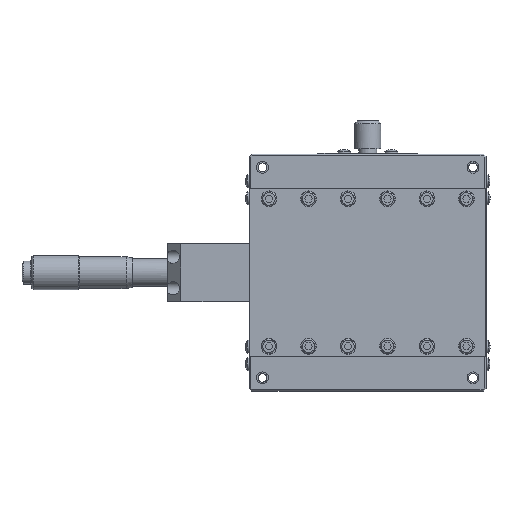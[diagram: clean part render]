
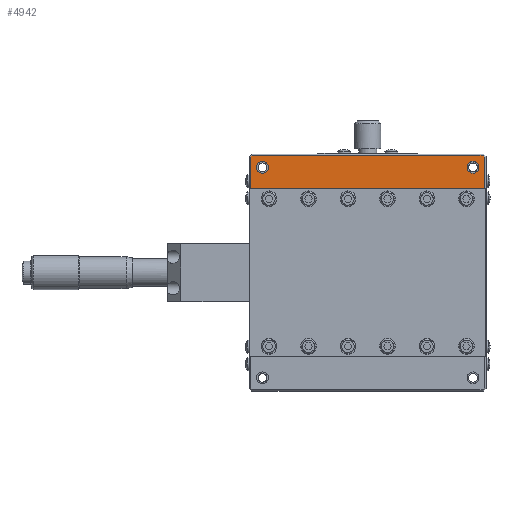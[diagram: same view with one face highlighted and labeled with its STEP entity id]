
A CAD part, front view. The second image highlights one B-rep face of the part: STEP entity #4942.
In plain terms, the highlighted planar face has unit normal (0, -1, 0).
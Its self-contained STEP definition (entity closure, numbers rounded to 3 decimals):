
#777 = CARTESIAN_POINT ( 'NONE',  ( 5., 2.982, 53.511 ) ) ;
#778 = DIRECTION ( 'NONE',  ( 0., -1., 0. ) ) ;
#779 = DIRECTION ( 'NONE',  ( 0., 0., 1. ) ) ;
#789 = CARTESIAN_POINT ( 'NONE',  ( 85., 2.982, 53.511 ) ) ;
#790 = DIRECTION ( 'NONE',  ( 0., -1., 0. ) ) ;
#791 = DIRECTION ( 'NONE',  ( 0., 0., 1. ) ) ;
#1484 = EDGE_LOOP ( 'NONE', ( #10310, #10311 ) ) ;
#1486 = EDGE_LOOP ( 'NONE', ( #10304, #10305, #10306, #10307, #10308, #10309 ) ) ;
#1505 = EDGE_LOOP ( 'NONE', ( #10312, #10313 ) ) ;
#2095 = DIRECTION ( 'NONE',  ( 0., 1., 0. ) ) ;
#2113 = CARTESIAN_POINT ( 'NONE',  ( 0., 2.982, 45.511 ) ) ;
#2114 = FACE_OUTER_BOUND ( 'NONE', #1486, .T. ) ;
#2117 = FACE_BOUND ( 'NONE', #1484, .T. ) ;
#2119 = FACE_BOUND ( 'NONE', #1505, .T. ) ;
#2120 = PLANE ( 'NONE',  #7218 ) ;
#2123 = DIRECTION ( 'NONE',  ( 0., 0., 1. ) ) ;
#2873 = CARTESIAN_POINT ( 'NONE',  ( 1.207, 2.982, 58.011 ) ) ;
#2882 = CARTESIAN_POINT ( 'NONE',  ( 88.793, 2.982, 58.011 ) ) ;
#2883 = CARTESIAN_POINT ( 'NONE',  ( 89.5, 2.982, 57.303 ) ) ;
#2885 = CARTESIAN_POINT ( 'NONE',  ( 0.5, 2.982, 45.511 ) ) ;
#2889 = CARTESIAN_POINT ( 'NONE',  ( 89.5, 2.982, 45.511 ) ) ;
#4942 = ADVANCED_FACE ( 'NONE', ( #2114, #2117, #2119 ), #2120, .F. ) ;
#6546 = VERTEX_POINT ( 'NONE', #2873 ) ;
#6555 = VERTEX_POINT ( 'NONE', #2882 ) ;
#6556 = VERTEX_POINT ( 'NONE', #2883 ) ;
#6558 = VERTEX_POINT ( 'NONE', #2885 ) ;
#6562 = VERTEX_POINT ( 'NONE', #2889 ) ;
#6615 = VERTEX_POINT ( 'NONE', #21342 ) ;
#6618 = VERTEX_POINT ( 'NONE', #24879 ) ;
#6619 = VERTEX_POINT ( 'NONE', #24880 ) ;
#6622 = VERTEX_POINT ( 'NONE', #24883 ) ;
#6631 = VERTEX_POINT ( 'NONE', #24892 ) ;
#7218 = AXIS2_PLACEMENT_3D ( 'NONE', #2113, #2095, #2123 ) ;
#7380 = EDGE_CURVE ( 'NONE', #6622, #6619, #12972, .T. ) ;
#7384 = EDGE_CURVE ( 'NONE', #6618, #6615, #12978, .T. ) ;
#7454 = EDGE_CURVE ( 'NONE', #6558, #6562, #22533, .T. ) ;
#7456 = EDGE_CURVE ( 'NONE', #6558, #6631, #22539, .T. ) ;
#7467 = EDGE_CURVE ( 'NONE', #6562, #6556, #22564, .T. ) ;
#7480 = EDGE_CURVE ( 'NONE', #6555, #6556, #22603, .T. ) ;
#7481 = EDGE_CURVE ( 'NONE', #6546, #6555, #22613, .T. ) ;
#7482 = EDGE_CURVE ( 'NONE', #6631, #6546, #22608, .T. ) ;
#7483 = EDGE_CURVE ( 'NONE', #6615, #6618, #10924, .T. ) ;
#7484 = EDGE_CURVE ( 'NONE', #6619, #6622, #10926, .T. ) ;
#10304 = ORIENTED_EDGE ( 'NONE', *, *, #7456, .F. ) ;
#10305 = ORIENTED_EDGE ( 'NONE', *, *, #7454, .T. ) ;
#10306 = ORIENTED_EDGE ( 'NONE', *, *, #7467, .T. ) ;
#10307 = ORIENTED_EDGE ( 'NONE', *, *, #7480, .F. ) ;
#10308 = ORIENTED_EDGE ( 'NONE', *, *, #7481, .F. ) ;
#10309 = ORIENTED_EDGE ( 'NONE', *, *, #7482, .F. ) ;
#10310 = ORIENTED_EDGE ( 'NONE', *, *, #7384, .F. ) ;
#10311 = ORIENTED_EDGE ( 'NONE', *, *, #7483, .F. ) ;
#10312 = ORIENTED_EDGE ( 'NONE', *, *, #7380, .F. ) ;
#10313 = ORIENTED_EDGE ( 'NONE', *, *, #7484, .F. ) ;
#10895 = VECTOR ( 'NONE', #22572, 1000. ) ;
#10897 = VECTOR ( 'NONE', #22617, 1000. ) ;
#10921 = VECTOR ( 'NONE', #22612, 1000. ) ;
#10923 = VECTOR ( 'NONE', #22615, 1000. ) ;
#10924 = CIRCLE ( 'NONE', #10927, 2.25 ) ;
#10926 = CIRCLE ( 'NONE', #10929, 2.25 ) ;
#10927 = AXIS2_PLACEMENT_3D ( 'NONE', #22618, #22619, #22620 ) ;
#10929 = AXIS2_PLACEMENT_3D ( 'NONE', #22622, #22623, #22624 ) ;
#12972 = CIRCLE ( 'NONE', #12979, 2.25 ) ;
#12978 = CIRCLE ( 'NONE', #12985, 2.25 ) ;
#12979 = AXIS2_PLACEMENT_3D ( 'NONE', #777, #778, #779 ) ;
#12985 = AXIS2_PLACEMENT_3D ( 'NONE', #789, #790, #791 ) ;
#13091 = VECTOR ( 'NONE', #22536, 1000. ) ;
#13093 = VECTOR ( 'NONE', #22541, 1000. ) ;
#21342 = CARTESIAN_POINT ( 'NONE',  ( 85., 2.982, 51.261 ) ) ;
#22533 = LINE ( 'NONE', #22535, #13091 ) ;
#22535 = CARTESIAN_POINT ( 'NONE',  ( 0., 2.982, 45.511 ) ) ;
#22536 = DIRECTION ( 'NONE',  ( 1., 0., 0. ) ) ;
#22539 = LINE ( 'NONE', #22540, #13093 ) ;
#22540 = CARTESIAN_POINT ( 'NONE',  ( 0.5, 2.982, -31.489 ) ) ;
#22541 = DIRECTION ( 'NONE',  ( 0., 0., 1. ) ) ;
#22564 = LINE ( 'NONE', #22571, #10895 ) ;
#22571 = CARTESIAN_POINT ( 'NONE',  ( 89.5, 2.982, -31.489 ) ) ;
#22572 = DIRECTION ( 'NONE',  ( 0., 0., 1. ) ) ;
#22603 = LINE ( 'NONE', #22604, #10921 ) ;
#22604 = CARTESIAN_POINT ( 'NONE',  ( 88.793, 2.982, 58.011 ) ) ;
#22608 = LINE ( 'NONE', #22616, #10897 ) ;
#22612 = DIRECTION ( 'NONE',  ( 0.707, 0., -0.707 ) ) ;
#22613 = LINE ( 'NONE', #22614, #10923 ) ;
#22614 = CARTESIAN_POINT ( 'NONE',  ( 0., 2.982, 58.011 ) ) ;
#22615 = DIRECTION ( 'NONE',  ( 1., 0., 0. ) ) ;
#22616 = CARTESIAN_POINT ( 'NONE',  ( 0.5, 2.982, 57.303 ) ) ;
#22617 = DIRECTION ( 'NONE',  ( 0.707, 0., 0.707 ) ) ;
#22618 = CARTESIAN_POINT ( 'NONE',  ( 85., 2.982, 53.511 ) ) ;
#22619 = DIRECTION ( 'NONE',  ( 0., -1., 0. ) ) ;
#22620 = DIRECTION ( 'NONE',  ( 0., 0., 1. ) ) ;
#22622 = CARTESIAN_POINT ( 'NONE',  ( 5., 2.982, 53.511 ) ) ;
#22623 = DIRECTION ( 'NONE',  ( 0., -1., 0. ) ) ;
#22624 = DIRECTION ( 'NONE',  ( 0., 0., 1. ) ) ;
#24879 = CARTESIAN_POINT ( 'NONE',  ( 85., 2.982, 55.761 ) ) ;
#24880 = CARTESIAN_POINT ( 'NONE',  ( 5., 2.982, 51.261 ) ) ;
#24883 = CARTESIAN_POINT ( 'NONE',  ( 5., 2.982, 55.761 ) ) ;
#24892 = CARTESIAN_POINT ( 'NONE',  ( 0.5, 2.982, 57.303 ) ) ;
